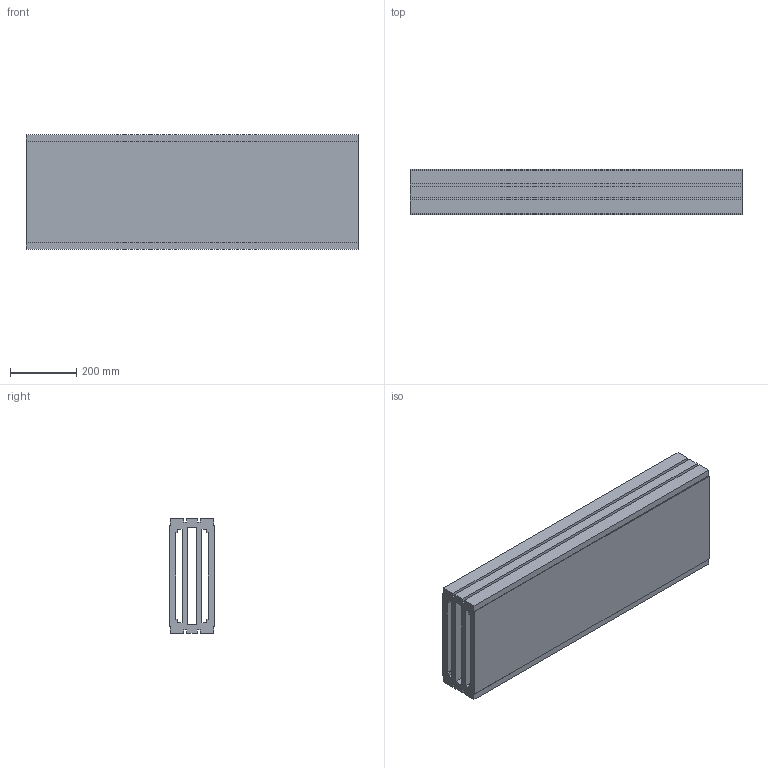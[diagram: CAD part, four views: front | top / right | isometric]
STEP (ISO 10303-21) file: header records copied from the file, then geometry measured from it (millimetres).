
FILE_DESCRIPTION (( 'STEP AP214' ), '1' );
FILE_NAME ('FS-350-MTC-150 02.150L01.350.N Baansectie recht 1000mm.STEP', '2017-12-21T10:08:23', ( '' ), ( '' ), 'SwSTEP 2.0', 'SolidWorks 2017', '' );
FILE_SCHEMA (( 'AUTOMOTIVE_DESIGN' ));
Length unit declared in the file: millimetre
Products named in the file (1): FS-350-MTC-150 02.150L01.350.N Baansectie recht 1000mm
Bounding box: 1000 x 136 x 346 mm (x, y, z)
Volume: 27818520 mm3; surface area: 2951637 mm2
Topology: 1 solids, 1 shells, 50 faces, 144 edges, 96 vertices
Faces by surface type: plane 50
Entity records: 1654 total; most frequent: CARTESIAN_POINT 291, ORIENTED_EDGE 288, DIRECTION 246, EDGE_CURVE 144, LINE 144, VECTOR 144, VERTEX_POINT 96, EDGE_LOOP 56
